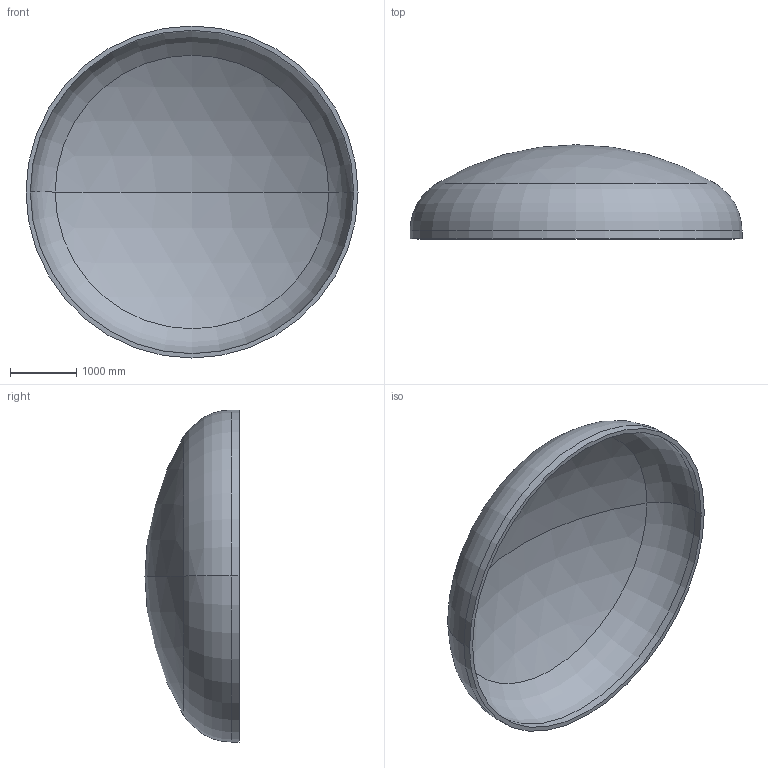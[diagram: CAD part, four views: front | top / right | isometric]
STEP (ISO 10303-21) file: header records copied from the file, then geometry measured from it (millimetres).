
FILE_DESCRIPTION (( 'STEP AP203' ), '1' );
FILE_NAME ('DIN 28013 Korbbogenform_-_Boden DIN 28013 - 5000 x 120 - I - s=66.step', '2016-07-02T00:41:57', ( '' ), ( '' ), 'SwSTEP 2.0', 'SolidWorks 2013', '' );
FILE_SCHEMA (( 'CONFIG_CONTROL_DESIGN' ));
Length unit declared in the file: millimetre
Products named in the file (1): DIN 28013 Korbbogenform_-_Boden DIN 28013 - 5000 x 120 - I - s=66
Bounding box: 5000 x 1417.61 x 5000 mm (x, y, z)
Volume: 1886536812.8 mm3; surface area: 58199925 mm2
Topology: 1 solids, 1 shells, 13 faces, 24 edges, 14 vertices
Faces by surface type: torus 4, cylinder 4, sphere 4, plane 1
Entity records: 407 total; most frequent: DIRECTION 72, CARTESIAN_POINT 52, ORIENTED_EDGE 48, AXIS2_PLACEMENT_3D 34, EDGE_CURVE 24, CIRCLE 20, EDGE_LOOP 14, VERTEX_POINT 14
